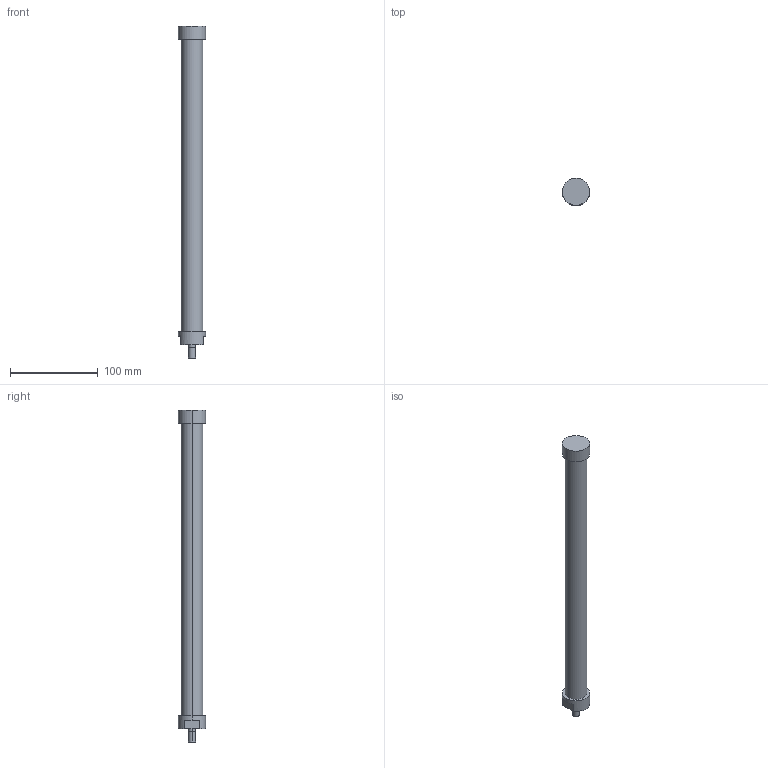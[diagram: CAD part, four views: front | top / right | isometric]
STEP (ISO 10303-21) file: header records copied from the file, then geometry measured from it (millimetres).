
FILE_DESCRIPTION(('STEP AP214'),'1');
FILE_NAME('ETT-R050M374.stp','2015-02-02T14:35:22',(' '),(' '),'Spatial InterOp 3D',' ',' ');
FILE_SCHEMA(('automotive_design'));
Length unit declared in the file: metre
Products named in the file (2): 1; 2
Bounding box: 31 x 31 x 379 mm (x, y, z)
Volume: 186776.4 mm3; surface area: 31825.5 mm2
Topology: 1 solids, 4 shells, 20 faces, 48 edges, 36 vertices
Faces by surface type: cylinder 10, plane 10
Entity records: 812 total; most frequent: DIRECTION 120, CARTESIAN_POINT 106, ORIENTED_EDGE 84, AXIS2_PLACEMENT_3D 50, EDGE_CURVE 48, VERTEX_POINT 36, CIRCLE 28, EDGE_LOOP 24
